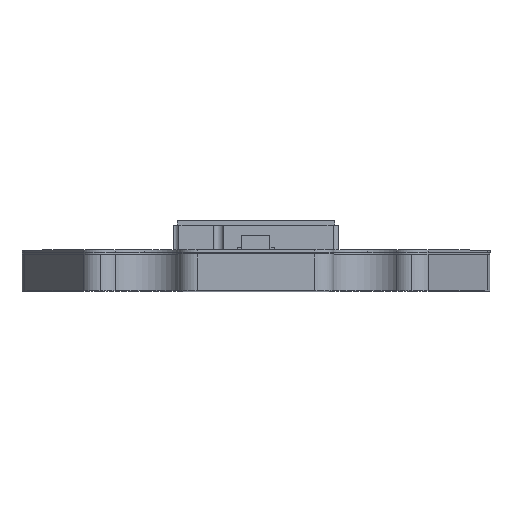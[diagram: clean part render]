
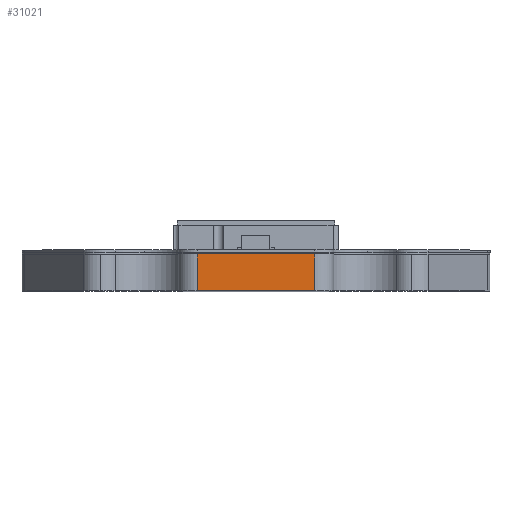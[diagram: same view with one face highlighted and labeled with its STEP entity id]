
A CAD part, top view. The second image highlights one B-rep face of the part: STEP entity #31021.
In plain terms, the highlighted planar face has unit normal (0, 0, 1).
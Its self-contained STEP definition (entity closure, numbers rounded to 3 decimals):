
#825 = VERTEX_POINT ( 'NONE', #32492 ) ;
#971 = LINE ( 'NONE', #31615, #15245 ) ;
#2364 = DIRECTION ( 'NONE',  ( 0., 0., 1. ) ) ;
#6092 = DIRECTION ( 'NONE',  ( 1., 0., 0. ) ) ;
#6673 = VECTOR ( 'NONE', #36093, 1000. ) ;
#7154 = EDGE_LOOP ( 'NONE', ( #30658, #23094, #18481, #29095 ) ) ;
#7505 = DIRECTION ( 'NONE',  ( 0., 1., 0. ) ) ;
#12989 = VERTEX_POINT ( 'NONE', #13326 ) ;
#13326 = CARTESIAN_POINT ( 'NONE',  ( -2.515, 0., 9.949 ) ) ;
#13772 = VECTOR ( 'NONE', #7505, 1000. ) ;
#13836 = EDGE_CURVE ( 'NONE', #16177, #17367, #35617, .T. ) ;
#15245 = VECTOR ( 'NONE', #6092, 1000. ) ;
#15534 = CARTESIAN_POINT ( 'NONE',  ( -2.515, -1.57, 9.949 ) ) ;
#16177 = VERTEX_POINT ( 'NONE', #17956 ) ;
#17367 = VERTEX_POINT ( 'NONE', #21719 ) ;
#17956 = CARTESIAN_POINT ( 'NONE',  ( 2.515, -1.57, 9.949 ) ) ;
#18010 = VECTOR ( 'NONE', #35511, 1000. ) ;
#18466 = FACE_OUTER_BOUND ( 'NONE', #7154, .T. ) ;
#18481 = ORIENTED_EDGE ( 'NONE', *, *, #19371, .T. ) ;
#19371 = EDGE_CURVE ( 'NONE', #825, #16177, #36949, .T. ) ;
#19425 = PLANE ( 'NONE',  #25717 ) ;
#21719 = CARTESIAN_POINT ( 'NONE',  ( 2.515, 0., 9.949 ) ) ;
#22271 = DIRECTION ( 'NONE',  ( 1., 0., 0. ) ) ;
#23094 = ORIENTED_EDGE ( 'NONE', *, *, #32977, .F. ) ;
#24506 = CARTESIAN_POINT ( 'NONE',  ( 2.515, -1.57, 9.949 ) ) ;
#24816 = EDGE_CURVE ( 'NONE', #12989, #17367, #971, .T. ) ;
#25717 = AXIS2_PLACEMENT_3D ( 'NONE', #33534, #2364, #22271 ) ;
#29095 = ORIENTED_EDGE ( 'NONE', *, *, #13836, .T. ) ;
#30218 = CARTESIAN_POINT ( 'NONE',  ( -2.515, -1.57, 9.949 ) ) ;
#30658 = ORIENTED_EDGE ( 'NONE', *, *, #24816, .F. ) ;
#31021 = ADVANCED_FACE ( 'NONE', ( #18466 ), #19425, .T. ) ;
#31615 = CARTESIAN_POINT ( 'NONE',  ( -2.515, 0., 9.949 ) ) ;
#32492 = CARTESIAN_POINT ( 'NONE',  ( -2.515, -1.57, 9.949 ) ) ;
#32977 = EDGE_CURVE ( 'NONE', #825, #12989, #33200, .T. ) ;
#33200 = LINE ( 'NONE', #15534, #18010 ) ;
#33534 = CARTESIAN_POINT ( 'NONE',  ( -2.515, -1.57, 9.949 ) ) ;
#35511 = DIRECTION ( 'NONE',  ( 0., 1., 0. ) ) ;
#35617 = LINE ( 'NONE', #24506, #13772 ) ;
#36093 = DIRECTION ( 'NONE',  ( 1., 0., 0. ) ) ;
#36949 = LINE ( 'NONE', #30218, #6673 ) ;
